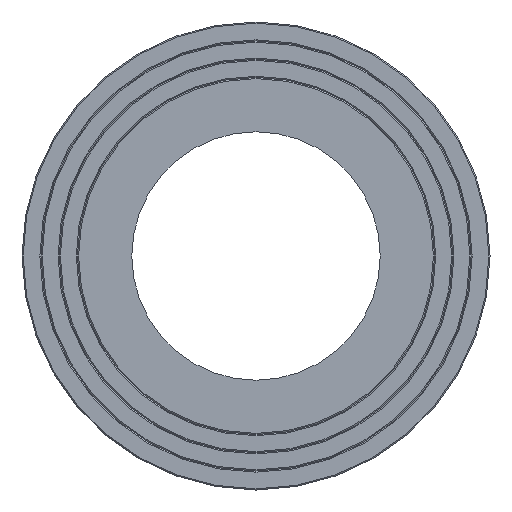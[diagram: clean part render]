
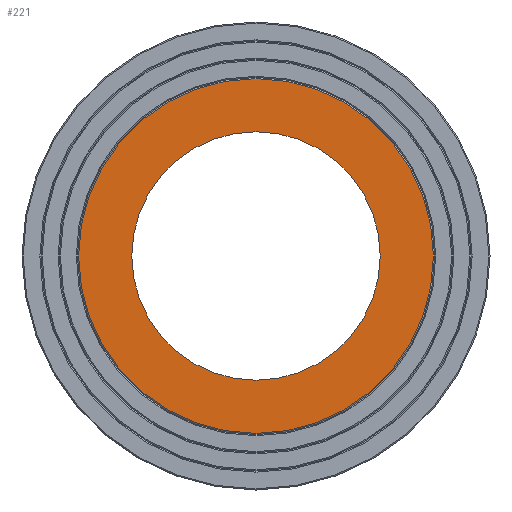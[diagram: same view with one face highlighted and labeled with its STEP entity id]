
A CAD part, left-side view. The second image highlights one B-rep face of the part: STEP entity #221.
In plain terms, the highlighted planar face has unit normal (-1, 0, 0).
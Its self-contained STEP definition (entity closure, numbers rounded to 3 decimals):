
#36=ORIENTED_EDGE('',*,*,#76,.F.);
#37=ORIENTED_EDGE('',*,*,#77,.T.);
#76=EDGE_CURVE('',#96,#96,#116,.T.);
#77=EDGE_CURVE('',#97,#97,#117,.T.);
#96=VERTEX_POINT('',#383);
#97=VERTEX_POINT('',#385);
#116=CIRCLE('',#257,163.5);
#117=CIRCLE('',#258,233.5);
#136=EDGE_LOOP('',(#36));
#137=EDGE_LOOP('',(#37));
#176=FACE_BOUND('',#136,.T.);
#177=FACE_BOUND('',#137,.T.);
#215=PLANE('',#256);
#221=ADVANCED_FACE('',(#176,#177),#215,.F.);
#256=AXIS2_PLACEMENT_3D('',#381,#301,#302);
#257=AXIS2_PLACEMENT_3D('',#382,#303,#304);
#258=AXIS2_PLACEMENT_3D('',#384,#305,#306);
#301=DIRECTION('',(1.,0.,0.));
#302=DIRECTION('',(0.,0.,-1.));
#303=DIRECTION('',(-1.,0.,0.));
#304=DIRECTION('',(0.,0.,1.));
#305=DIRECTION('',(-1.,0.,0.));
#306=DIRECTION('',(0.,0.,1.));
#381=CARTESIAN_POINT('',(0.,0.,308.));
#382=CARTESIAN_POINT('',(0.,0.,0.));
#383=CARTESIAN_POINT('',(0.,0.,163.5));
#384=CARTESIAN_POINT('',(0.,0.,0.));
#385=CARTESIAN_POINT('',(0.,0.,233.5));
